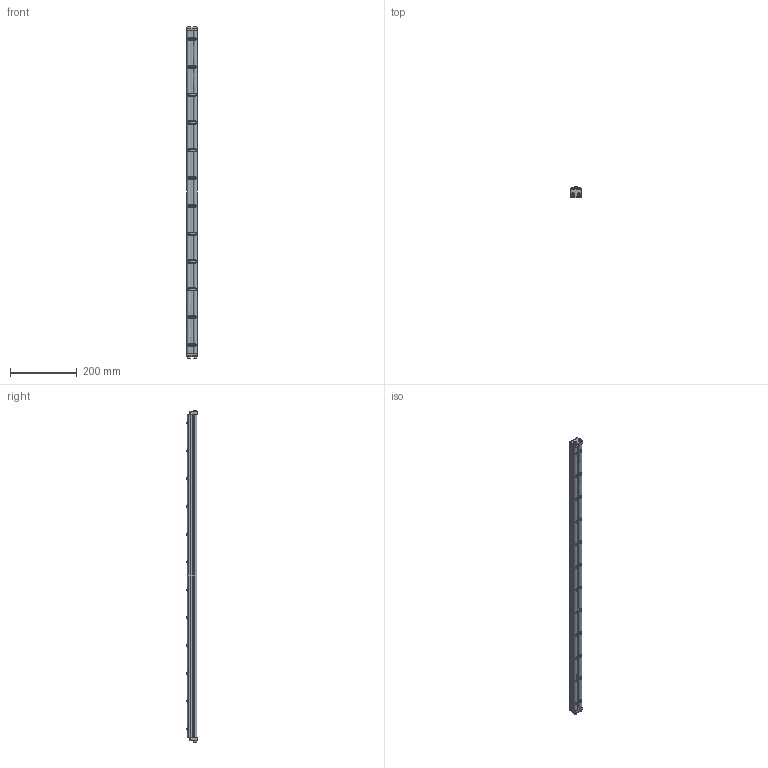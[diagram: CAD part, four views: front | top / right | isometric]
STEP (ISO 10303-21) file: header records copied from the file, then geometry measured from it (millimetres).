
FILE_DESCRIPTION((''),'2;1');
FILE_NAME('324938_ASM','2023-03-14T',('jenni.wallner'),(''),'PRO/ENGINEER BY PARAMETRIC TECHNOLOGY CORPORATION, 2012420','PRO/ENGINEER BY PARAMETRIC TECHNOLOGY CORPORATION, 2012420','');
FILE_SCHEMA(('CONFIG_CONTROL_DESIGN'));
Length unit declared in the file: inch
Products named in the file (7): 240826; X920693M; 2410WW_CAE_241038; 240827_CAE; 2436WW_243638; ASM0001_ASM; 324938_ASM
Assembly tree (21 placements, depth 3):
  324938_ASM
    ASM0001_ASM
      240826  x12
      X920693M  x4
      2410WW_CAE_241038
      240827_CAE  x2
      2436WW_243638
Bounding box: 30.88 x 33.34 x 992.61 mm (x, y, z)
Volume: 471752.6 mm3; surface area: 280357.4 mm2
Topology: 20 solids, 20 shells, 720 faces, 2048 edges, 1352 vertices
Faces by surface type: cylinder 330, plane 242, cone 100, torus 48
Entity records: 17537 total; most frequent: CARTESIAN_POINT 4411, ORIENTED_EDGE 2864, DIRECTION 2752, EDGE_CURVE 1432, AXIS2_PLACEMENT_3D 1044, VERTEX_POINT 956, VECTOR 664, LINE 664
